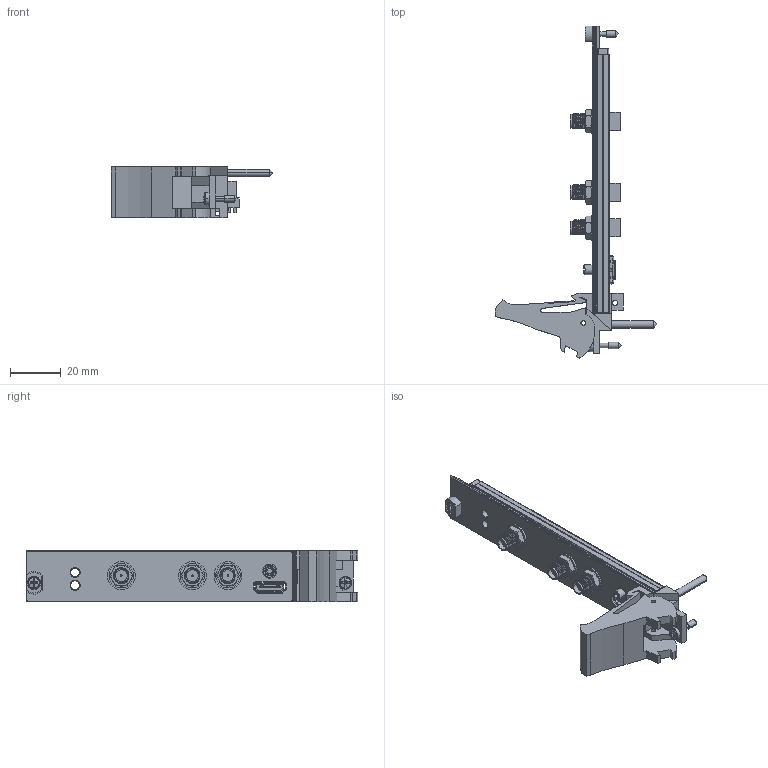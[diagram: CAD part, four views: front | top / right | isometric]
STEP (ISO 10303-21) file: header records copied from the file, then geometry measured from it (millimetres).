
FILE_DESCRIPTION((''),'2;1');
FILE_NAME('CU_PXIE-54X3_1CH','2017-02-09T',('jjorden'),(''),'CREO PARAMETRIC BY PTC INC, 2015380','CREO PARAMETRIC BY PTC INC, 2015380','');
FILE_SCHEMA(('CONFIG_CONTROL_DESIGN'));
Length unit declared in the file: inch
Products named in the file (1): CU_PXIE-54X3_1CH
Bounding box: 63.53 x 130.5 x 20.31 mm (x, y, z)
Volume: 17906.2 mm3; surface area: 18905.2 mm2
Topology: 3 solids, 3 shells, 2463 faces, 6991 edges, 4515 vertices
Faces by surface type: plane 1555, cylinder 602, bspline 194, cone 66, torus 36, sphere 8, extrusion 2
Entity records: 126619 total; most frequent: CARTESIAN_POINT 63328, ORIENTED_EDGE 13962, DIRECTION 12091, EDGE_CURVE 6981, VECTOR 4787, LINE 4785, VERTEX_POINT 4534, AXIS2_PLACEMENT_3D 3652
